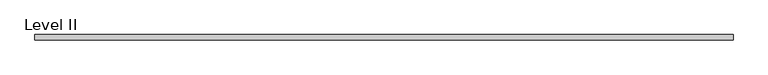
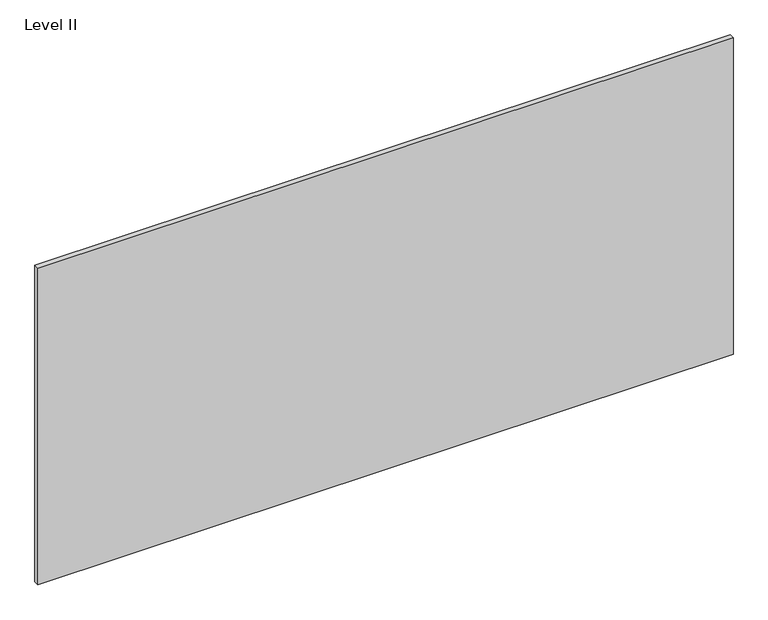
"""IFC4 building model written with IfcOpenShell, lengths in millimetres: proxy geometry, Panel-Fascia-Teknion-Altos-Landscape : Level II."""

from ifc_helpers import new_model, si_unit, frame, origin, place, context, project, spatial, polyline, outline, extrude, source, transform, mapped, element, save


def level_ii_f53a0955(model_context):
    return source(origin(), model_context, "Body", "SweptSolid", [
        extrude(outline(polyline([(1259.8356344, -9.525), (-1259.8356344, -9.525), (-1259.8356344, 9.525), (1259.8356344, 9.525), (1259.8356344, -9.525)])), frame((0.0, 0.0, 3.175), z_axis=(0.0, 0.0, 1.0), x_axis=(1.0, 0.0, 0.0)), (0.0, 0.0, 1.0), 1212.85),
    ])


if __name__ == "__main__":
    model = new_model("IFC4")
    model_context = context("Model", 3, world=origin())
    ifc_project = project(units=[si_unit("LENGTHUNIT", "METRE", prefix="MILLI")], contexts=[model_context])
    site = spatial("IfcSite", under=ifc_project)
    building = spatial("IfcBuilding", under=site)
    placement = place(None, origin())
    level_ii_shape = level_ii_f53a0955(model_context)
    element("IfcBuildingElementProxy", 1, Name="Panel-Fascia-Teknion-Altos-Landscape : Level II", ObjectType="Panel-Fascia-Teknion-Altos-Landscape : Level II", at=placement, inside=building, context=model_context, shape_type="MappedRepresentation", body=[
        mapped(level_ii_shape, transform((0.0, 0.0, 0.0), x_axis=(1.0, 0.0, 0.0), y_axis=(0.0, 1.0, 0.0), z_axis=(0.0, 0.0, 1.0))),
    ])
    save(model, "model.ifc")
